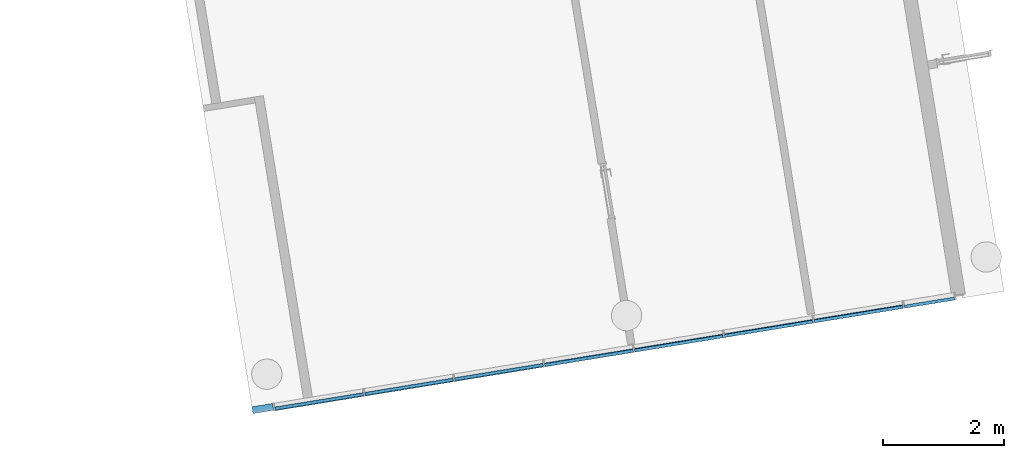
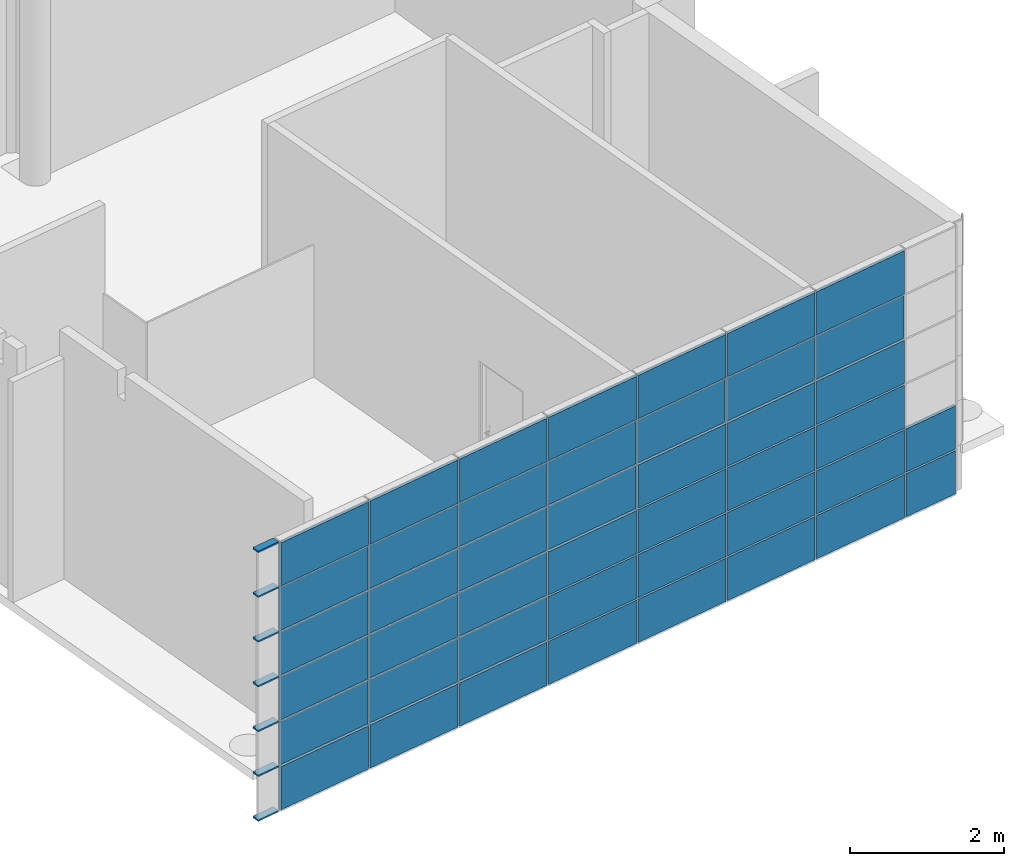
# One storey, part 7 of 18: 44 plates, 7 members, 1 element without a shape of its own.
"""IFC2X3 building model written with IfcOpenShell, lengths in millimetres."""

from ifc_helpers import new_model, entity, si_unit, converted_unit, derived_unit, direction, frame, frame_2d, origin, origin_with_axes, origin_2d_with_axis, place, context, subcontext, project, spatial, rectangle, extrude, faceted_brep, source, transform, mapped, material, type_object, element, aggregate, save


model = new_model("IFC2X3")

# Units and contexts
model_context = context("Model", 3, precision=0.01, world=origin(), true_north=direction((6.12323399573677e-17, 1.0)))
plan_context = context("Plan", 3, precision=1e-05, world=origin_with_axes())
body_context = subcontext(model_context, "Body", "Model", "MODEL_VIEW")
ifc_project = project(units=[converted_unit("PLANEANGLEUNIT", "DEGREE", entity("IfcPositiveLengthMeasure", 0.0174532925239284), si_unit("PLANEANGLEUNIT", "RADIAN"), dimensions=[0, 0, 0, 0, 0, 0, 0]), si_unit("AREAUNIT", "SQUARE_METRE"), si_unit("LENGTHUNIT", "METRE", prefix="MILLI"), si_unit("MASSUNIT", "GRAM", prefix="KILO"), si_unit("POWERUNIT", "WATT"), si_unit("PRESSUREUNIT", "PASCAL", prefix="KILO"), si_unit("FORCEUNIT", "NEWTON", prefix="KILO"), si_unit("ELECTRICVOLTAGEUNIT", "VOLT"), si_unit("ELECTRICCURRENTUNIT", "AMPERE"), si_unit("THERMODYNAMICTEMPERATUREUNIT", "DEGREE_CELSIUS"), si_unit("TIMEUNIT", "SECOND"), si_unit("VOLUMEUNIT", "CUBIC_METRE"), derived_unit("LINEARVELOCITYUNIT", [(si_unit("LENGTHUNIT", "METRE"), 1), (si_unit("TIMEUNIT", "SECOND"), -1)]), derived_unit("VOLUMETRICFLOWRATEUNIT", [(si_unit("VOLUMEUNIT", "CUBIC_METRE"), 1), (si_unit("TIMEUNIT", "SECOND"), -1)]), derived_unit("THERMALTRANSMITTANCEUNIT", [(si_unit("POWERUNIT", "WATT"), 1), (si_unit("THERMODYNAMICTEMPERATUREUNIT", "KELVIN"), -1), (si_unit("AREAUNIT", "SQUARE_METRE"), -1)]), derived_unit("SOUNDPRESSUREUNIT", [(si_unit("PRESSUREUNIT", "PASCAL"), 1)])], contexts=[model_context, plan_context])

# Site, building, storey
site_placement = place(None, frame((-305029.896016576, -232111.759730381, 0.0), z_axis=(0.0, 0.0, 1.0), x_axis=(-0.160806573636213, 0.986985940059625, 0.0)))
site = spatial("IfcSite", under=ifc_project, at=site_placement, Name="Default", CompositionType="ELEMENT")
building_placement = place(site_placement, frame((0.0, 0.0, 0.0), z_axis=(0.0, 0.0, 1.0), x_axis=(1.0, -2.77555756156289e-17, 0.0)))
building = spatial("IfcBuilding", under=site, at=building_placement, Name="br001-a-200-1-0001", CompositionType="ELEMENT")
storey_placement = place(building_placement, frame((0.0, 0.0, 55500.0), z_axis=(0.0, 0.0, 1.0), x_axis=(1.0, -2.77555756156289e-17, 0.0)))
storey = spatial("IfcBuildingStorey", under=building, at=storey_placement, Name="H02-Nivå F-3,5 m", CompositionType="ELEMENT", Elevation=55500.0)

# Curtain wall, members, plates
curtain_wall_type = type_object("IfcCurtainWallType", Name="Curtain Wall:Flesland int curt wall", PredefinedType="NOTDEFINED")
curtain_wall_placement = place(storey_placement, frame((0.0, 0.0, -55500.0), z_axis=(0.0, 0.0, 1.0), x_axis=(1.0, -2.77555756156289e-17, 0.0)))
curtain_wall = element("IfcCurtainWall", 1, at=curtain_wall_placement, inside=storey, type_object=curtain_wall_type, Name="Curtain Wall:Flesland int curt wall", ObjectType="Curtain Wall:Flesland int curt wall")
ifc_material_1 = material(Name="Laminate - Ivory, Matte")
member_type = type_object("IfcMemberType", Name="Rectangular Mullion:Flesland Int 25x125", PredefinedType="MULLION", material=ifc_material_1)
member_1_placement = place(curtain_wall_placement, frame((1172125.09858442, -722781.378367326, 59039.5), z_axis=(-2.77555756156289e-17, -1.0, 0.0), x_axis=(0.0, 0.0, 1.0)))
member_1 = element("IfcMember", 2, at=member_1_placement, type_object=member_type, Name="Rectangular Mullion:Flesland Int 25x125", ObjectType="Rectangular Mullion:Flesland Int 25x125", context=body_context, shape_type="Brep", body=[
    faceted_brep([(12.5, 49.9999999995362, 7.95807864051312e-12), (12.5, 49.9999999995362, -344.298928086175), (12.5, -62.5, -344.298928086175), (12.5, -62.5, 7.95807864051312e-12), (-12.5, -62.5, -344.298928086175), (-12.5, 49.9999999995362, -344.298928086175), (-12.5, 49.9999999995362, 7.95807864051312e-12), (-12.5, -62.5, 7.95807864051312e-12)], [[[0, 1, 2, 3]], [[4, 5, 6, 7]], [[2, 4, 7, 3]], [[6, 0, 3, 7]], [[5, 4, 2, 1]], [[1, 0, 6, 5]]], orient=[[False], [False], [False], [False], [False], [False]]),
])
member_2_placement = place(curtain_wall_placement, frame((1172125.09858442, -722781.378367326, 57617.5), z_axis=(-2.77555756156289e-17, -1.0, 0.0), x_axis=(0.0, 0.0, 1.0)))
member_2 = element("IfcMember", 3, at=member_2_placement, type_object=member_type, Name="Rectangular Mullion:Flesland Int 25x125", ObjectType="Rectangular Mullion:Flesland Int 25x125", context=body_context, shape_type="Brep", body=[
    faceted_brep([(12.5, 49.9999999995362, 7.95807864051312e-12), (12.5, 49.9999999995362, -344.298928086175), (12.5, -62.5, -344.298928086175), (12.5, -62.5, 7.95807864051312e-12), (-12.5, -62.5, -344.298928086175), (-12.5, 49.9999999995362, -344.298928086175), (-12.5, 49.9999999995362, 7.95807864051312e-12), (-12.5, -62.5, 7.95807864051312e-12)], [[[0, 1, 2, 3]], [[4, 5, 6, 7]], [[2, 4, 7, 3]], [[6, 0, 3, 7]], [[5, 4, 2, 1]], [[1, 0, 6, 5]]], orient=[[False], [False], [False], [False], [False], [False]]),
])
member_3_placement = place(curtain_wall_placement, frame((1172125.09858442, -722781.378367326, 58328.5), z_axis=(-2.77555756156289e-17, -1.0, 0.0), x_axis=(0.0, 0.0, 1.0)))
member_3 = element("IfcMember", 4, at=member_3_placement, type_object=member_type, Name="Rectangular Mullion:Flesland Int 25x125", ObjectType="Rectangular Mullion:Flesland Int 25x125", context=body_context, shape_type="Brep", body=[
    faceted_brep([(12.5, 49.9999999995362, 7.95807864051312e-12), (12.5, 49.9999999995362, -344.298928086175), (12.5, -62.5, -344.298928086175), (12.5, -62.5, 7.95807864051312e-12), (-12.5, -62.5, -344.298928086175), (-12.5, 49.9999999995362, -344.298928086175), (-12.5, 49.9999999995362, 7.95807864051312e-12), (-12.5, -62.5, 7.95807864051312e-12)], [[[0, 1, 2, 3]], [[4, 5, 6, 7]], [[2, 4, 7, 3]], [[6, 0, 3, 7]], [[5, 4, 2, 1]], [[1, 0, 6, 5]]], orient=[[False], [False], [False], [False], [False], [False]]),
])
member_4_placement = place(curtain_wall_placement, frame((1172125.09858442, -722781.378367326, 56906.5), z_axis=(-2.77555756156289e-17, -1.0, 0.0), x_axis=(0.0, 0.0, 1.0)))
member_4 = element("IfcMember", 5, at=member_4_placement, type_object=member_type, Name="Rectangular Mullion:Flesland Int 25x125", ObjectType="Rectangular Mullion:Flesland Int 25x125", context=body_context, shape_type="Brep", body=[
    faceted_brep([(12.5, 49.9999999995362, 7.95807864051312e-12), (12.5, 49.9999999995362, -344.298928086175), (12.5, -62.5, -344.298928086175), (12.5, -62.5, 7.95807864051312e-12), (-12.5, -62.5, -344.298928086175), (-12.5, 49.9999999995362, -344.298928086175), (-12.5, 49.9999999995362, 7.95807864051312e-12), (-12.5, -62.5, 7.95807864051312e-12)], [[[0, 1, 2, 3]], [[4, 5, 6, 7]], [[2, 4, 7, 3]], [[6, 0, 3, 7]], [[5, 4, 2, 1]], [[1, 0, 6, 5]]], orient=[[False], [False], [False], [False], [False], [False]]),
])
member_5_placement = place(curtain_wall_placement, frame((1172125.09858442, -722781.378367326, 56195.5), z_axis=(-2.77555756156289e-17, -1.0, 0.0), x_axis=(0.0, 0.0, 1.0)))
member_5 = element("IfcMember", 6, at=member_5_placement, type_object=member_type, Name="Rectangular Mullion:Flesland Int 25x125", ObjectType="Rectangular Mullion:Flesland Int 25x125", context=body_context, shape_type="Brep", body=[
    faceted_brep([(12.5, 49.9999999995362, 7.95807864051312e-12), (12.5, 49.9999999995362, -344.298928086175), (12.5, -62.5, -344.298928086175), (12.5, -62.5, 7.95807864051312e-12), (-12.5, -62.5, -344.298928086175), (-12.5000000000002, 49.9999999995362, -344.298928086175), (-12.5, 49.9999999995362, 7.95807864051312e-12), (-12.5, -62.5, 7.95807864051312e-12)], [[[0, 1, 2, 3]], [[4, 5, 6, 7]], [[2, 4, 7, 3]], [[6, 0, 3, 7]], [[5, 4, 2, 1]], [[1, 0, 6, 5]]], orient=[[False], [False], [False], [False], [False], [False]]),
])
member_6_placement = place(curtain_wall_placement, frame((1172125.09858442, -722781.378367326, 55484.5), z_axis=(-2.77555756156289e-17, -1.0, 0.0), x_axis=(0.0, 0.0, 1.0)))
member_6 = element("IfcMember", 7, at=member_6_placement, type_object=member_type, Name="Rectangular Mullion:Flesland Int 25x125", ObjectType="Rectangular Mullion:Flesland Int 25x125", context=body_context, shape_type="Brep", body=[
    faceted_brep([(12.5, 49.9999999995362, 7.95807864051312e-12), (12.5000000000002, 49.9999999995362, -344.298928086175), (12.5, -62.5, -344.298928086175), (12.5, -62.5, 7.95807864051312e-12), (-12.5, -62.5, -344.298928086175), (-12.4999999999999, 49.9999999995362, -344.298928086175), (-12.5, 49.9999999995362, 7.95807864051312e-12), (-12.5, -62.5, 7.95807864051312e-12)], [[[0, 1, 2, 3]], [[4, 5, 6, 7]], [[2, 4, 7, 3]], [[6, 0, 3, 7]], [[5, 4, 2, 1]], [[1, 0, 6, 5]]], orient=[[False], [False], [False], [False], [False], [False]]),
])
member_7_placement = place(curtain_wall_placement, frame((1172125.09858442, -722781.378367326, 54773.5), z_axis=(-2.77555756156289e-17, -1.0, 0.0), x_axis=(0.0, 0.0, 1.0)))
member_7 = element("IfcMember", 8, at=member_7_placement, type_object=member_type, Name="Rectangular Mullion:Flesland Int 25x125", ObjectType="Rectangular Mullion:Flesland Int 25x125", context=body_context, shape_type="Brep", body=[
    faceted_brep([(12.5, 49.9999999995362, 7.95807864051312e-12), (12.5, 49.9999999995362, -344.298928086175), (12.5, -62.5, -344.298928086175), (12.5, -62.5, 7.95807864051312e-12), (-12.5, -62.5, -344.298928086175), (-12.5000000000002, 49.9999999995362, -344.298928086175), (-12.5, 49.9999999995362, 7.95807864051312e-12), (-12.5, -62.5, 7.95807864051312e-12)], [[[0, 1, 2, 3]], [[4, 5, 6, 7]], [[2, 4, 7, 3]], [[6, 0, 3, 7]], [[5, 4, 2, 1]], [[1, 0, 6, 5]]], orient=[[False], [False], [False], [False], [False], [False]]),
])
ifc_material_2 = material(Name="Flesland - Finishes - Interior - Metal Panel")
plate_type_1 = type_object("IfcPlateType", Name="System Panel:Flesland int curt wall solid", PredefinedType="CURTAIN_PANEL", material=ifc_material_2)
shared_shape_1 = source(origin(), body_context, "Body", "SweptSolid", [
    extrude(rectangle(XDim=50.0, YDim=1474.99999999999, at=frame_2d((0.0, -1.89857018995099e-11), x_axis=(1.0, 0.0))), frame((0.0, -37.4999999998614, 0.0), z_axis=(0.0, 0.0, 1.0), x_axis=(0.0, 1.0, 0.0)), (0.0, 0.0, 1.0), 686.0),
])
plate_1_placement = place(curtain_wall_placement, frame((1172125.09858442, -723543.878367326, 54786.0), z_axis=(0.0, 0.0, 1.0), x_axis=(-2.77555756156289e-17, -1.0, 0.0)))
plate_1 = element("IfcPlate", 9, at=plate_1_placement, type_object=plate_type_1, material=ifc_material_2, Name="System Panel:Flesland int curt wall solid", ObjectType="System Panel:Flesland int curt wall solid", context=body_context, shape_type="MappedRepresentation", body=[
    mapped(shared_shape_1, transform((0.0, 0.0, 0.0), scale=1.0)),
])
plate_2_placement = place(curtain_wall_placement, frame((1172125.09858442, -725043.878367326, 54786.0), z_axis=(0.0, 0.0, 1.0), x_axis=(-2.77555756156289e-17, -1.0, 0.0)))
plate_2 = element("IfcPlate", 10, at=plate_2_placement, type_object=plate_type_1, material=ifc_material_2, Name="System Panel:Flesland int curt wall solid", ObjectType="System Panel:Flesland int curt wall solid", context=body_context, shape_type="MappedRepresentation", body=[
    mapped(shared_shape_1, transform((0.0, 0.0, 0.0), scale=1.0)),
])
plate_3_placement = place(curtain_wall_placement, frame((1172125.09858442, -726543.878367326, 54786.0), z_axis=(0.0, 0.0, 1.0), x_axis=(-2.77555756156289e-17, -1.0, 0.0)))
plate_3 = element("IfcPlate", 11, at=plate_3_placement, type_object=plate_type_1, material=ifc_material_2, Name="System Panel:Flesland int curt wall solid", ObjectType="System Panel:Flesland int curt wall solid", context=body_context, shape_type="MappedRepresentation", body=[
    mapped(shared_shape_1, transform((0.0, 0.0, 0.0), scale=1.0)),
])
plate_4_placement = place(curtain_wall_placement, frame((1172125.09858442, -728043.878367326, 54786.0), z_axis=(0.0, 0.0, 1.0), x_axis=(-2.77555756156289e-17, -1.0, 0.0)))
plate_4 = element("IfcPlate", 12, at=plate_4_placement, type_object=plate_type_1, material=ifc_material_2, Name="System Panel:Flesland int curt wall solid", ObjectType="System Panel:Flesland int curt wall solid", context=body_context, shape_type="MappedRepresentation", body=[
    mapped(shared_shape_1, transform((0.0, 0.0, 0.0), scale=1.0)),
])
plate_5_placement = place(curtain_wall_placement, frame((1172125.09858442, -729543.878367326, 54786.0), z_axis=(0.0, 0.0, 1.0), x_axis=(-2.77555756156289e-17, -1.0, 0.0)))
plate_5 = element("IfcPlate", 13, at=plate_5_placement, type_object=plate_type_1, material=ifc_material_2, Name="System Panel:Flesland int curt wall solid", ObjectType="System Panel:Flesland int curt wall solid", context=body_context, shape_type="MappedRepresentation", body=[
    mapped(shared_shape_1, transform((0.0, 0.0, 0.0), scale=1.0)),
])
plate_6_placement = place(curtain_wall_placement, frame((1172125.09858442, -731043.878367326, 54786.0), z_axis=(0.0, 0.0, 1.0), x_axis=(-2.77555756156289e-17, -1.0, 0.0)))
plate_6 = element("IfcPlate", 14, at=plate_6_placement, type_object=plate_type_1, material=ifc_material_2, Name="System Panel:Flesland int curt wall solid", ObjectType="System Panel:Flesland int curt wall solid", context=body_context, shape_type="MappedRepresentation", body=[
    mapped(shared_shape_1, transform((0.0, 0.0, 0.0), scale=1.0)),
])
plate_7_placement = place(curtain_wall_placement, frame((1172125.09858442, -732543.878367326, 54786.0), z_axis=(0.0, 0.0, 1.0), x_axis=(-2.77555756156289e-17, -1.0, 0.0)))
plate_7 = element("IfcPlate", 15, at=plate_7_placement, type_object=plate_type_1, material=ifc_material_2, Name="System Panel:Flesland int curt wall solid", ObjectType="System Panel:Flesland int curt wall solid", context=body_context, shape_type="MappedRepresentation", body=[
    mapped(shared_shape_1, transform((0.0, 0.0, 0.0), scale=1.0)),
])
plate_8_placement = place(curtain_wall_placement, frame((1172125.09858442, -728043.878367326, 55497.0), z_axis=(0.0, 0.0, 1.0), x_axis=(-2.77555756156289e-17, -1.0, 0.0)))
plate_8 = element("IfcPlate", 16, at=plate_8_placement, type_object=plate_type_1, material=ifc_material_2, Name="System Panel:Flesland int curt wall solid", ObjectType="System Panel:Flesland int curt wall solid", context=body_context, shape_type="MappedRepresentation", body=[
    mapped(shared_shape_1, transform((0.0, 0.0, 0.0), scale=1.0)),
])
plate_9_placement = place(curtain_wall_placement, frame((1172125.09858442, -729543.878367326, 55497.0), z_axis=(0.0, 0.0, 1.0), x_axis=(-2.77555756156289e-17, -1.0, 0.0)))
plate_9 = element("IfcPlate", 17, at=plate_9_placement, type_object=plate_type_1, material=ifc_material_2, Name="System Panel:Flesland int curt wall solid", ObjectType="System Panel:Flesland int curt wall solid", context=body_context, shape_type="MappedRepresentation", body=[
    mapped(shared_shape_1, transform((0.0, 0.0, 0.0), scale=1.0)),
])
plate_10_placement = place(curtain_wall_placement, frame((1172125.09858442, -731043.878367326, 55497.0), z_axis=(0.0, 0.0, 1.0), x_axis=(-2.77555756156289e-17, -1.0, 0.0)))
plate_10 = element("IfcPlate", 18, at=plate_10_placement, type_object=plate_type_1, material=ifc_material_2, Name="System Panel:Flesland int curt wall solid", ObjectType="System Panel:Flesland int curt wall solid", context=body_context, shape_type="MappedRepresentation", body=[
    mapped(shared_shape_1, transform((0.0, 0.0, 0.0), scale=1.0)),
])
plate_11_placement = place(curtain_wall_placement, frame((1172125.09858442, -732543.878367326, 55497.0), z_axis=(0.0, 0.0, 1.0), x_axis=(-2.77555756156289e-17, -1.0, 0.0)))
plate_11 = element("IfcPlate", 19, at=plate_11_placement, type_object=plate_type_1, material=ifc_material_2, Name="System Panel:Flesland int curt wall solid", ObjectType="System Panel:Flesland int curt wall solid", context=body_context, shape_type="MappedRepresentation", body=[
    mapped(shared_shape_1, transform((0.0, 0.0, 0.0), scale=1.0)),
])
plate_12_placement = place(curtain_wall_placement, frame((1172125.09858442, -728043.878367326, 56208.0), z_axis=(0.0, 0.0, 1.0), x_axis=(-2.77555756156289e-17, -1.0, 0.0)))
plate_12 = element("IfcPlate", 20, at=plate_12_placement, type_object=plate_type_1, material=ifc_material_2, Name="System Panel:Flesland int curt wall solid", ObjectType="System Panel:Flesland int curt wall solid", context=body_context, shape_type="MappedRepresentation", body=[
    mapped(shared_shape_1, transform((0.0, 0.0, 0.0), scale=1.0)),
])
plate_13_placement = place(curtain_wall_placement, frame((1172125.09858442, -729543.878367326, 56208.0), z_axis=(0.0, 0.0, 1.0), x_axis=(-2.77555756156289e-17, -1.0, 0.0)))
plate_13 = element("IfcPlate", 21, at=plate_13_placement, type_object=plate_type_1, material=ifc_material_2, Name="System Panel:Flesland int curt wall solid", ObjectType="System Panel:Flesland int curt wall solid", context=body_context, shape_type="MappedRepresentation", body=[
    mapped(shared_shape_1, transform((0.0, 0.0, 0.0), scale=1.0)),
])
plate_14_placement = place(curtain_wall_placement, frame((1172125.09858442, -731043.878367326, 56208.0), z_axis=(0.0, 0.0, 1.0), x_axis=(-2.77555756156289e-17, -1.0, 0.0)))
plate_14 = element("IfcPlate", 22, at=plate_14_placement, type_object=plate_type_1, material=ifc_material_2, Name="System Panel:Flesland int curt wall solid", ObjectType="System Panel:Flesland int curt wall solid", context=body_context, shape_type="MappedRepresentation", body=[
    mapped(shared_shape_1, transform((0.0, 0.0, 0.0), scale=1.0)),
])
plate_15_placement = place(curtain_wall_placement, frame((1172125.09858442, -732543.878367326, 56208.0), z_axis=(0.0, 0.0, 1.0), x_axis=(-2.77555756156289e-17, -1.0, 0.0)))
plate_15 = element("IfcPlate", 23, at=plate_15_placement, type_object=plate_type_1, material=ifc_material_2, Name="System Panel:Flesland int curt wall solid", ObjectType="System Panel:Flesland int curt wall solid", context=body_context, shape_type="MappedRepresentation", body=[
    mapped(shared_shape_1, transform((0.0, 0.0, 0.0), scale=1.0)),
])
plate_16_placement = place(curtain_wall_placement, frame((1172125.09858442, -729543.878367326, 56919.0), z_axis=(0.0, 0.0, 1.0), x_axis=(-2.77555756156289e-17, -1.0, 0.0)))
plate_16 = element("IfcPlate", 24, at=plate_16_placement, type_object=plate_type_1, material=ifc_material_2, Name="System Panel:Flesland int curt wall solid", ObjectType="System Panel:Flesland int curt wall solid", context=body_context, shape_type="MappedRepresentation", body=[
    mapped(shared_shape_1, transform((0.0, 0.0, 0.0), scale=1.0)),
])
plate_17_placement = place(curtain_wall_placement, frame((1172125.09858442, -731043.878367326, 56919.0), z_axis=(0.0, 0.0, 1.0), x_axis=(-2.77555756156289e-17, -1.0, 0.0)))
plate_17 = element("IfcPlate", 25, at=plate_17_placement, type_object=plate_type_1, material=ifc_material_2, Name="System Panel:Flesland int curt wall solid", ObjectType="System Panel:Flesland int curt wall solid", context=body_context, shape_type="MappedRepresentation", body=[
    mapped(shared_shape_1, transform((0.0, 0.0, 0.0), scale=1.0)),
])
plate_18_placement = place(curtain_wall_placement, frame((1172125.09858442, -732543.878367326, 56919.0), z_axis=(0.0, 0.0, 1.0), x_axis=(-2.77555756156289e-17, -1.0, 0.0)))
plate_18 = element("IfcPlate", 26, at=plate_18_placement, type_object=plate_type_1, material=ifc_material_2, Name="System Panel:Flesland int curt wall solid", ObjectType="System Panel:Flesland int curt wall solid", context=body_context, shape_type="MappedRepresentation", body=[
    mapped(shared_shape_1, transform((0.0, 0.0, 0.0), scale=1.0)),
])
plate_19_placement = place(curtain_wall_placement, frame((1172125.09858442, -723543.878367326, 58341.0), z_axis=(0.0, 0.0, 1.0), x_axis=(-2.77555756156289e-17, -1.0, 0.0)))
plate_19 = element("IfcPlate", 27, at=plate_19_placement, type_object=plate_type_1, material=ifc_material_2, Name="System Panel:Flesland int curt wall solid", ObjectType="System Panel:Flesland int curt wall solid", context=body_context, shape_type="MappedRepresentation", body=[
    mapped(shared_shape_1, transform((0.0, 0.0, 0.0), scale=1.0)),
])
plate_20_placement = place(curtain_wall_placement, frame((1172125.09858442, -725043.878367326, 58341.0), z_axis=(0.0, 0.0, 1.0), x_axis=(-2.77555756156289e-17, -1.0, 0.0)))
plate_20 = element("IfcPlate", 28, at=plate_20_placement, type_object=plate_type_1, material=ifc_material_2, Name="System Panel:Flesland int curt wall solid", ObjectType="System Panel:Flesland int curt wall solid", context=body_context, shape_type="MappedRepresentation", body=[
    mapped(shared_shape_1, transform((0.0, 0.0, 0.0), scale=1.0)),
])
plate_21_placement = place(curtain_wall_placement, frame((1172125.09858442, -726543.878367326, 58341.0), z_axis=(0.0, 0.0, 1.0), x_axis=(-2.77555756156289e-17, -1.0, 0.0)))
plate_21 = element("IfcPlate", 29, at=plate_21_placement, type_object=plate_type_1, material=ifc_material_2, Name="System Panel:Flesland int curt wall solid", ObjectType="System Panel:Flesland int curt wall solid", context=body_context, shape_type="MappedRepresentation", body=[
    mapped(shared_shape_1, transform((0.0, 0.0, 0.0), scale=1.0)),
])
plate_22_placement = place(curtain_wall_placement, frame((1172125.09858442, -728043.878367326, 58341.0), z_axis=(0.0, 0.0, 1.0), x_axis=(-2.77555756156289e-17, -1.0, 0.0)))
plate_22 = element("IfcPlate", 30, at=plate_22_placement, type_object=plate_type_1, material=ifc_material_2, Name="System Panel:Flesland int curt wall solid", ObjectType="System Panel:Flesland int curt wall solid", context=body_context, shape_type="MappedRepresentation", body=[
    mapped(shared_shape_1, transform((0.0, 0.0, 0.0), scale=1.0)),
])
plate_23_placement = place(curtain_wall_placement, frame((1172125.09858442, -729543.878367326, 58341.0), z_axis=(0.0, 0.0, 1.0), x_axis=(-2.77555756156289e-17, -1.0, 0.0)))
plate_23 = element("IfcPlate", 31, at=plate_23_placement, type_object=plate_type_1, material=ifc_material_2, Name="System Panel:Flesland int curt wall solid", ObjectType="System Panel:Flesland int curt wall solid", context=body_context, shape_type="MappedRepresentation", body=[
    mapped(shared_shape_1, transform((0.0, 0.0, 0.0), scale=1.0)),
])
plate_24_placement = place(curtain_wall_placement, frame((1172125.09858442, -731043.878367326, 58341.0), z_axis=(0.0, 0.0, 1.0), x_axis=(-2.77555756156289e-17, -1.0, 0.0)))
plate_24 = element("IfcPlate", 32, at=plate_24_placement, type_object=plate_type_1, material=ifc_material_2, Name="System Panel:Flesland int curt wall solid", ObjectType="System Panel:Flesland int curt wall solid", context=body_context, shape_type="MappedRepresentation", body=[
    mapped(shared_shape_1, transform((0.0, 0.0, 0.0), scale=1.0)),
])
plate_25_placement = place(curtain_wall_placement, frame((1172125.09858442, -732543.878367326, 58341.0), z_axis=(0.0, 0.0, 1.0), x_axis=(-2.77555756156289e-17, -1.0, 0.0)))
plate_25 = element("IfcPlate", 33, at=plate_25_placement, type_object=plate_type_1, material=ifc_material_2, Name="System Panel:Flesland int curt wall solid", ObjectType="System Panel:Flesland int curt wall solid", context=body_context, shape_type="MappedRepresentation", body=[
    mapped(shared_shape_1, transform((0.0, 0.0, 0.0), scale=1.0)),
])
plate_type_2 = type_object("IfcPlateType", Name="System Panel:Flesland int curt wall solid", PredefinedType="CURTAIN_PANEL", material=ifc_material_2)
shared_shape_2 = source(origin(), body_context, "Body", "SweptSolid", [
    extrude(rectangle(XDim=50.0, YDim=834.99999969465, at=origin_2d_with_axis()), frame((0.0, -37.5000000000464, 0.0), z_axis=(0.0, 0.0, 1.0), x_axis=(0.0, 1.0, 0.0)), (0.0, 0.0, 1.0), 686.0),
])
plate_26_placement = place(curtain_wall_placement, frame((1172125.09858442, -733723.878367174, 54786.0), z_axis=(0.0, 0.0, 1.0), x_axis=(-2.77555756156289e-17, -1.0, 0.0)))
plate_26 = element("IfcPlate", 34, at=plate_26_placement, type_object=plate_type_2, material=ifc_material_2, Name="System Panel:Flesland int curt wall solid", ObjectType="System Panel:Flesland int curt wall solid", context=body_context, shape_type="MappedRepresentation", body=[
    mapped(shared_shape_2, transform((0.0, 0.0, 0.0), scale=1.0)),
])
plate_27_placement = place(curtain_wall_placement, frame((1172125.09858442, -733723.878367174, 55497.0), z_axis=(0.0, 0.0, 1.0), x_axis=(-2.77555756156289e-17, -1.0, 0.0)))
plate_27 = element("IfcPlate", 35, at=plate_27_placement, type_object=plate_type_2, material=ifc_material_2, Name="System Panel:Flesland int curt wall solid", ObjectType="System Panel:Flesland int curt wall solid", context=body_context, shape_type="MappedRepresentation", body=[
    mapped(shared_shape_2, transform((0.0, 0.0, 0.0), scale=1.0)),
])
ifc_material_3 = material(Name="_NSW Glass")
plate_type_3 = type_object("IfcPlateType", Name="System Panel:Flesland int curt wall", PredefinedType="CURTAIN_PANEL", material=ifc_material_3)
shared_shape_3 = source(origin(), body_context, "Body", "SweptSolid", [
    extrude(rectangle(XDim=50.0, YDim=1475.00000000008, at=frame_2d((0.0, -2.30784280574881e-11), x_axis=(1.0, 0.0))), frame((0.0, -25.0, 0.0), z_axis=(0.0, 0.0, 1.0), x_axis=(0.0, 1.0, 0.0)), (0.0, 0.0, 1.0), 686.0),
])
plate_28_placement = place(curtain_wall_placement, frame((1172125.09858442, -723543.878367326, 55497.0), z_axis=(0.0, 0.0, 1.0), x_axis=(-2.77555756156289e-17, -1.0, 0.0)))
plate_28 = element("IfcPlate", 36, at=plate_28_placement, type_object=plate_type_3, material=ifc_material_3, Name="System Panel:Flesland int curt wall", ObjectType="System Panel:Flesland int curt wall", context=body_context, shape_type="MappedRepresentation", body=[
    mapped(shared_shape_3, transform((0.0, 0.0, 0.0), scale=1.0)),
])
plate_29_placement = place(curtain_wall_placement, frame((1172125.09858442, -725043.878367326, 55497.0), z_axis=(0.0, 0.0, 1.0), x_axis=(-2.77555756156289e-17, -1.0, 0.0)))
plate_29 = element("IfcPlate", 37, at=plate_29_placement, type_object=plate_type_3, material=ifc_material_3, Name="System Panel:Flesland int curt wall", ObjectType="System Panel:Flesland int curt wall", context=body_context, shape_type="MappedRepresentation", body=[
    mapped(shared_shape_3, transform((0.0, 0.0, 0.0), scale=1.0)),
])
plate_30_placement = place(curtain_wall_placement, frame((1172125.09858442, -726543.878367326, 55497.0), z_axis=(0.0, 0.0, 1.0), x_axis=(-2.77555756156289e-17, -1.0, 0.0)))
plate_30 = element("IfcPlate", 38, at=plate_30_placement, type_object=plate_type_3, material=ifc_material_3, Name="System Panel:Flesland int curt wall", ObjectType="System Panel:Flesland int curt wall", context=body_context, shape_type="MappedRepresentation", body=[
    mapped(shared_shape_3, transform((0.0, 0.0, 0.0), scale=1.0)),
])
plate_31_placement = place(curtain_wall_placement, frame((1172125.09858442, -723543.878367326, 56208.0), z_axis=(0.0, 0.0, 1.0), x_axis=(-2.77555756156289e-17, -1.0, 0.0)))
plate_31 = element("IfcPlate", 39, at=plate_31_placement, type_object=plate_type_3, material=ifc_material_3, Name="System Panel:Flesland int curt wall", ObjectType="System Panel:Flesland int curt wall", context=body_context, shape_type="MappedRepresentation", body=[
    mapped(shared_shape_3, transform((0.0, 0.0, 0.0), scale=1.0)),
])
plate_32_placement = place(curtain_wall_placement, frame((1172125.09858442, -725043.878367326, 56208.0), z_axis=(0.0, 0.0, 1.0), x_axis=(-2.77555756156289e-17, -1.0, 0.0)))
plate_32 = element("IfcPlate", 40, at=plate_32_placement, type_object=plate_type_3, material=ifc_material_3, Name="System Panel:Flesland int curt wall", ObjectType="System Panel:Flesland int curt wall", context=body_context, shape_type="MappedRepresentation", body=[
    mapped(shared_shape_3, transform((0.0, 0.0, 0.0), scale=1.0)),
])
plate_33_placement = place(curtain_wall_placement, frame((1172125.09858442, -726543.878367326, 56208.0), z_axis=(0.0, 0.0, 1.0), x_axis=(-2.77555756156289e-17, -1.0, 0.0)))
plate_33 = element("IfcPlate", 41, at=plate_33_placement, type_object=plate_type_3, material=ifc_material_3, Name="System Panel:Flesland int curt wall", ObjectType="System Panel:Flesland int curt wall", context=body_context, shape_type="MappedRepresentation", body=[
    mapped(shared_shape_3, transform((0.0, 0.0, 0.0), scale=1.0)),
])
plate_34_placement = place(curtain_wall_placement, frame((1172125.09858442, -723543.878367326, 56919.0), z_axis=(0.0, 0.0, 1.0), x_axis=(-2.77555756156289e-17, -1.0, 0.0)))
plate_34 = element("IfcPlate", 42, at=plate_34_placement, type_object=plate_type_3, material=ifc_material_3, Name="System Panel:Flesland int curt wall", ObjectType="System Panel:Flesland int curt wall", context=body_context, shape_type="MappedRepresentation", body=[
    mapped(shared_shape_3, transform((0.0, 0.0, 0.0), scale=1.0)),
])
plate_35_placement = place(curtain_wall_placement, frame((1172125.09858442, -725043.878367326, 56919.0), z_axis=(0.0, 0.0, 1.0), x_axis=(-2.77555756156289e-17, -1.0, 0.0)))
plate_35 = element("IfcPlate", 43, at=plate_35_placement, type_object=plate_type_3, material=ifc_material_3, Name="System Panel:Flesland int curt wall", ObjectType="System Panel:Flesland int curt wall", context=body_context, shape_type="MappedRepresentation", body=[
    mapped(shared_shape_3, transform((0.0, 0.0, 0.0), scale=1.0)),
])
plate_36_placement = place(curtain_wall_placement, frame((1172125.09858442, -726543.878367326, 56919.0), z_axis=(0.0, 0.0, 1.0), x_axis=(-2.77555756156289e-17, -1.0, 0.0)))
plate_36 = element("IfcPlate", 44, at=plate_36_placement, type_object=plate_type_3, material=ifc_material_3, Name="System Panel:Flesland int curt wall", ObjectType="System Panel:Flesland int curt wall", context=body_context, shape_type="MappedRepresentation", body=[
    mapped(shared_shape_3, transform((0.0, 0.0, 0.0), scale=1.0)),
])
plate_37_placement = place(curtain_wall_placement, frame((1172125.09858442, -728043.878367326, 56919.0), z_axis=(0.0, 0.0, 1.0), x_axis=(-2.77555756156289e-17, -1.0, 0.0)))
plate_37 = element("IfcPlate", 45, at=plate_37_placement, type_object=plate_type_3, material=ifc_material_3, Name="System Panel:Flesland int curt wall", ObjectType="System Panel:Flesland int curt wall", context=body_context, shape_type="MappedRepresentation", body=[
    mapped(shared_shape_3, transform((0.0, 0.0, 0.0), scale=1.0)),
])
plate_38_placement = place(curtain_wall_placement, frame((1172125.09858442, -723543.878367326, 57630.0), z_axis=(0.0, 0.0, 1.0), x_axis=(-2.77555756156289e-17, -1.0, 0.0)))
plate_38 = element("IfcPlate", 46, at=plate_38_placement, type_object=plate_type_3, material=ifc_material_3, Name="System Panel:Flesland int curt wall", ObjectType="System Panel:Flesland int curt wall", context=body_context, shape_type="MappedRepresentation", body=[
    mapped(shared_shape_3, transform((0.0, 0.0, 0.0), scale=1.0)),
])
plate_39_placement = place(curtain_wall_placement, frame((1172125.09858442, -725043.878367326, 57630.0), z_axis=(0.0, 0.0, 1.0), x_axis=(-2.77555756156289e-17, -1.0, 0.0)))
plate_39 = element("IfcPlate", 47, at=plate_39_placement, type_object=plate_type_3, material=ifc_material_3, Name="System Panel:Flesland int curt wall", ObjectType="System Panel:Flesland int curt wall", context=body_context, shape_type="MappedRepresentation", body=[
    mapped(shared_shape_3, transform((0.0, 0.0, 0.0), scale=1.0)),
])
plate_40_placement = place(curtain_wall_placement, frame((1172125.09858442, -726543.878367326, 57630.0), z_axis=(0.0, 0.0, 1.0), x_axis=(-2.77555756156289e-17, -1.0, 0.0)))
plate_40 = element("IfcPlate", 48, at=plate_40_placement, type_object=plate_type_3, material=ifc_material_3, Name="System Panel:Flesland int curt wall", ObjectType="System Panel:Flesland int curt wall", context=body_context, shape_type="MappedRepresentation", body=[
    mapped(shared_shape_3, transform((0.0, 0.0, 0.0), scale=1.0)),
])
plate_41_placement = place(curtain_wall_placement, frame((1172125.09858442, -728043.878367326, 57630.0), z_axis=(0.0, 0.0, 1.0), x_axis=(-2.77555756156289e-17, -1.0, 0.0)))
plate_41 = element("IfcPlate", 49, at=plate_41_placement, type_object=plate_type_3, material=ifc_material_3, Name="System Panel:Flesland int curt wall", ObjectType="System Panel:Flesland int curt wall", context=body_context, shape_type="MappedRepresentation", body=[
    mapped(shared_shape_3, transform((0.0, 0.0, 0.0), scale=1.0)),
])
plate_42_placement = place(curtain_wall_placement, frame((1172125.09858442, -729543.878367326, 57630.0), z_axis=(0.0, 0.0, 1.0), x_axis=(-2.77555756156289e-17, -1.0, 0.0)))
plate_42 = element("IfcPlate", 50, at=plate_42_placement, type_object=plate_type_3, material=ifc_material_3, Name="System Panel:Flesland int curt wall", ObjectType="System Panel:Flesland int curt wall", context=body_context, shape_type="MappedRepresentation", body=[
    mapped(shared_shape_3, transform((0.0, 0.0, 0.0), scale=1.0)),
])
plate_43_placement = place(curtain_wall_placement, frame((1172125.09858442, -731043.878367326, 57630.0), z_axis=(0.0, 0.0, 1.0), x_axis=(-2.77555756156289e-17, -1.0, 0.0)))
plate_43 = element("IfcPlate", 51, at=plate_43_placement, type_object=plate_type_3, material=ifc_material_3, Name="System Panel:Flesland int curt wall", ObjectType="System Panel:Flesland int curt wall", context=body_context, shape_type="MappedRepresentation", body=[
    mapped(shared_shape_3, transform((0.0, 0.0, 0.0), scale=1.0)),
])
plate_44_placement = place(curtain_wall_placement, frame((1172125.09858442, -732543.878367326, 57630.0), z_axis=(0.0, 0.0, 1.0), x_axis=(-2.77555756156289e-17, -1.0, 0.0)))
plate_44 = element("IfcPlate", 52, at=plate_44_placement, type_object=plate_type_3, material=ifc_material_3, Name="System Panel:Flesland int curt wall", ObjectType="System Panel:Flesland int curt wall", context=body_context, shape_type="MappedRepresentation", body=[
    mapped(shared_shape_3, transform((0.0, 0.0, 0.0), scale=1.0)),
])
aggregate(curtain_wall, [member_1, member_2, member_3, member_4, member_5, member_6, member_7, plate_1, plate_2, plate_3, plate_4, plate_5, plate_6, plate_7, plate_26, plate_28, plate_29, plate_30, plate_8, plate_9, plate_10, plate_11, plate_27, plate_31, plate_32, plate_33, plate_12, plate_13, plate_14, plate_15, plate_34, plate_35, plate_36, plate_37, plate_16, plate_17, plate_18, plate_38, plate_39, plate_40, plate_41, plate_42, plate_43, plate_44, plate_19, plate_20, plate_21, plate_22, plate_23, plate_24, plate_25])

save(model, "model.ifc")
